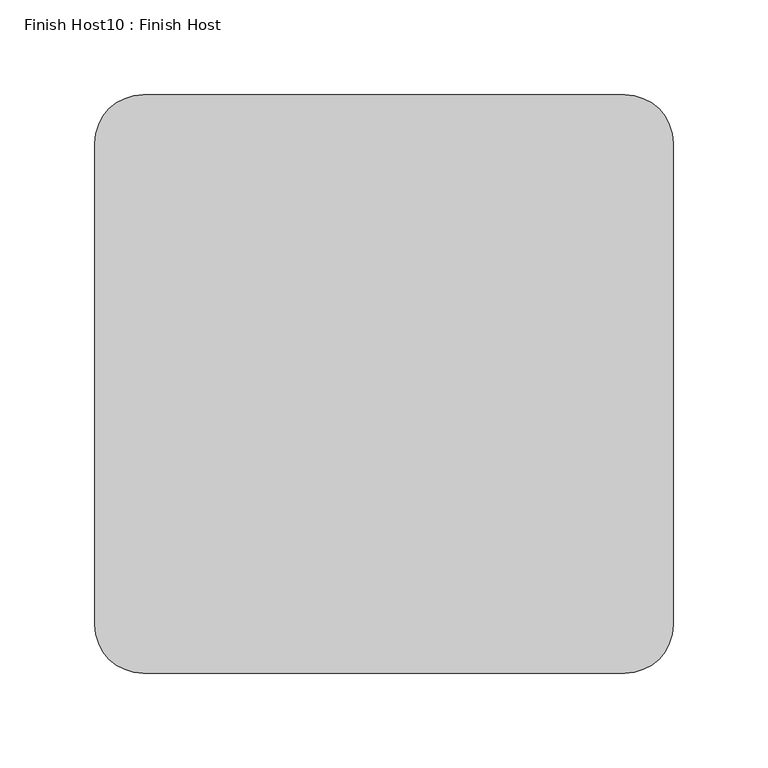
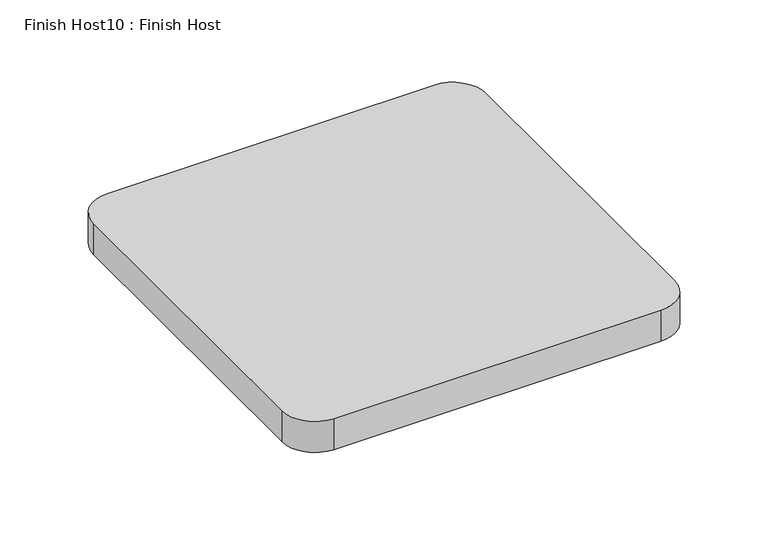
"""IFC4 building model written with IfcOpenShell, lengths in millimetres: proxy geometry, Finish Host10 : Finish Host."""

from ifc_helpers import new_model, si_unit, point, frame_2d, origin, origin_with_axes, place, context, project, spatial, polyline, circle_curve, trimmed, segment, composite_curve, outline, extrude, source, transform, mapped, element, save


def finish_host10_finish_host_a3397b89(model_context):
    return source(origin(), model_context, "Body", "SweptSolid", [
        extrude(outline(composite_curve([segment(polyline([(3628.5649374, 2632.9667263), (3628.5649374, 2886.9667263)]), True, "CONTINUOUS"), segment(trimmed(circle_curve(frame_2d((3653.9649374, 2886.9667263)), 25.4), [point((3628.5649374, 2886.9667263))], [point((3653.9649374, 2912.3667263))], False, "CARTESIAN"), True, "CONTINUOUS"), segment(polyline([(3653.9649374, 2912.3667263), (3907.9649374, 2912.3667263)]), True, "CONTINUOUS"), segment(trimmed(circle_curve(frame_2d((3907.9649374, 2886.9667263)), 25.4), [point((3907.9649374, 2912.3667263))], [point((3933.3649374, 2886.9667263))], False, "CARTESIAN"), True, "CONTINUOUS"), segment(polyline([(3933.3649374, 2886.9667263), (3933.3649374, 2632.9667263)]), True, "CONTINUOUS"), segment(trimmed(circle_curve(frame_2d((3907.9649374, 2632.9667263)), 25.4), [point((3933.3649374, 2632.9667263))], [point((3907.9649374, 2607.5667263))], False, "CARTESIAN"), True, "CONTINUOUS"), segment(polyline([(3907.9649374, 2607.5667263), (3653.9649374, 2607.5667263)]), True, "CONTINUOUS"), segment(trimmed(circle_curve(frame_2d((3653.9649374, 2632.9667263)), 25.4), [point((3653.9649374, 2607.5667263))], [point((3628.5649374, 2632.9667263))], False, "CARTESIAN"), True, "CONTINUOUS")], self_intersect=False)), origin_with_axes(), (0.0, 0.0, 1.0), 25.4),
    ])


if __name__ == "__main__":
    model = new_model("IFC4")
    model_context = context("Model", 3, world=origin())
    ifc_project = project(units=[si_unit("LENGTHUNIT", "METRE", prefix="MILLI")], contexts=[model_context])
    site = spatial("IfcSite", under=ifc_project)
    building = spatial("IfcBuilding", under=site)
    placement = place(None, origin())
    finish_host10_finish_host_shape = finish_host10_finish_host_a3397b89(model_context)
    element("IfcBuildingElementProxy", 1, Name="Finish Host10 : Finish Host", ObjectType="Finish Host10 : Finish Host", at=placement, inside=building, context=model_context, shape_type="MappedRepresentation", body=[
        mapped(finish_host10_finish_host_shape, transform((0.0, 0.0, 0.0), x_axis=(1.0, 0.0, 0.0), y_axis=(0.0, 1.0, 0.0), z_axis=(0.0, 0.0, 1.0))),
    ])
    save(model, "model.ifc")
